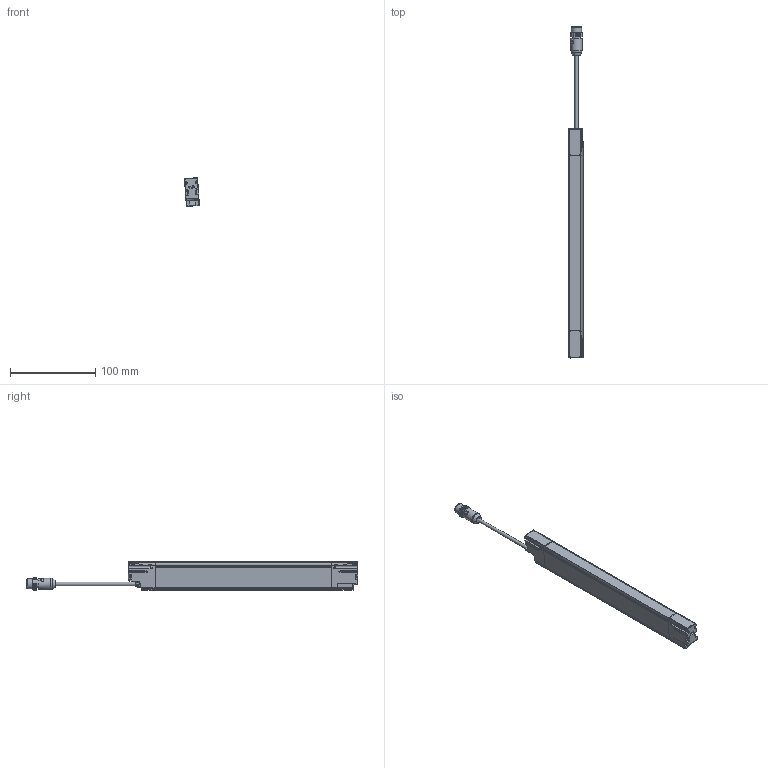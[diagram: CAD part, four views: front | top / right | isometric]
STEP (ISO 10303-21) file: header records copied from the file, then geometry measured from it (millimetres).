
FILE_DESCRIPTION(/* description */ (''),/* implementation_level */ '2;1');
FILE_NAME(/* name */ 'DSD-0624.stp',/* time_stamp */ '2015-02-23T17:00:38+01:00',/* author */ (''),/* organization */ (''),/* preprocessor_version */ 'ST-DEVELOPER v11',/* originating_system */ 'SIEMENS PLM Software NX 7.5',/* authorisation */ '');
FILE_SCHEMA (('AUTOMOTIVE_DESIGN { 1 0 10303 214 1 1 1 1 }'));
Length unit declared in the file: millimetre
Products named in the file (1): AP008100_00
Bounding box: 17.36 x 390.24 x 33.46 mm (x, y, z)
Surface area: 35321.3 mm2 (no closed solid volume)
Topology: 0 solids, 45 shells, 1113 faces, 3781 edges, 2571 vertices
Faces by surface type: cylinder 399, plane 335, bspline 152, torus 114, sphere 72, cone 41
Full cylindrical faces by diameter (mm): 1 x5, 1.2 x2, 2.6 x6, 4 x1, 8.3 x1, 9.4 x1, 10.4 x1, 12 x1, 13 x1, 13.5 x1, 14.5 x2
Entity records: 47712 total; most frequent: CARTESIAN_POINT 16004, DIRECTION 6772, ORIENTED_EDGE 5893, EDGE_CURVE 3643, AXIS2_PLACEMENT_3D 2557, VERTEX_POINT 2531, LINE 1658, VECTOR 1658
